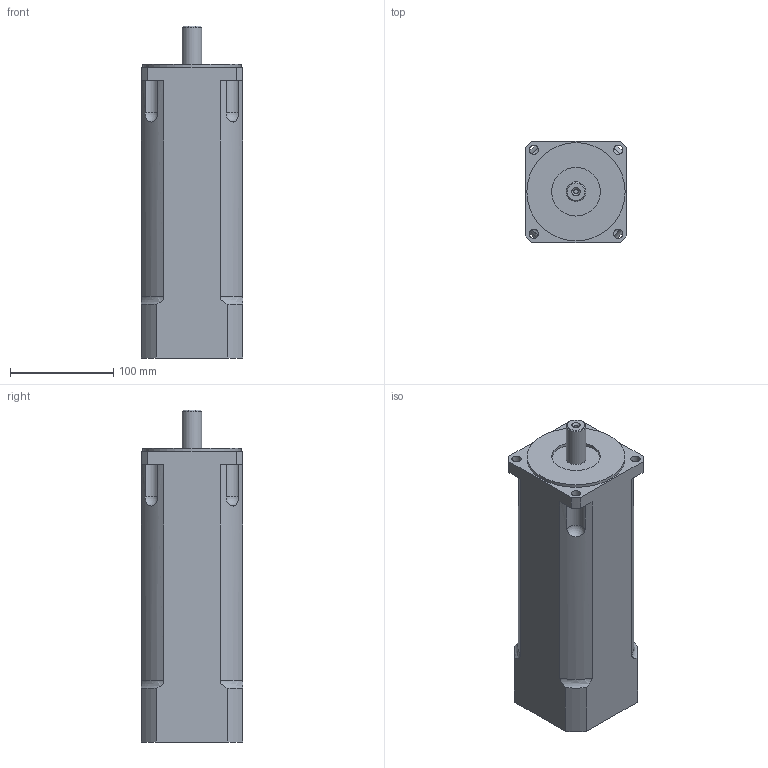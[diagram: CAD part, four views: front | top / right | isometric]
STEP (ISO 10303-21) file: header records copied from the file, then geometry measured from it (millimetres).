
FILE_DESCRIPTION(/* description */ ('Alibre Inc.'),/* implementation_level */ '2;1');
FILE_NAME(/* name */ 'export2',/* time_stamp */ '2013-04-11T08:33:51+02:00',/* author */ (''),/* organization */ (''),/* preprocessor_version */ 'ST-DEVELOPER v12',/* originating_system */ 'Alibre',/* authorisation */ '');
FILE_SCHEMA (('ALIBRE_SCHEMA','CONFIG_CONTROL_DESIGN'));
Length unit declared in the file: centimetre
Products named in the file (3): ID_1
Bounding box: 98 x 98 x 321 mm (x, y, z)
Volume: 2543333.9 mm3; surface area: 132646.7 mm2
Topology: 2 solids, 2 shells, 120 faces, 322 edges, 214 vertices
Faces by surface type: cylinder 69, plane 37, cone 5, torus 4, sphere 4, bspline 1
Full cylindrical faces by diameter (mm): 2.7 x4, 4.134 x1, 9 x4, 19 x1, 20 x5, 22 x2, 47 x1, 95 x1
Entity records: 10371 total; most frequent: CARTESIAN_POINT 2864, DIRECTION 1046, ORIENTED_EDGE 940, EDGE_CURVE 470, AXIS2_PLACEMENT_3D 435, PERSISTANTTOPOLOGYATTRIBUTE 377, VERTEX_POINT 334, EDGE_LOOP 258
